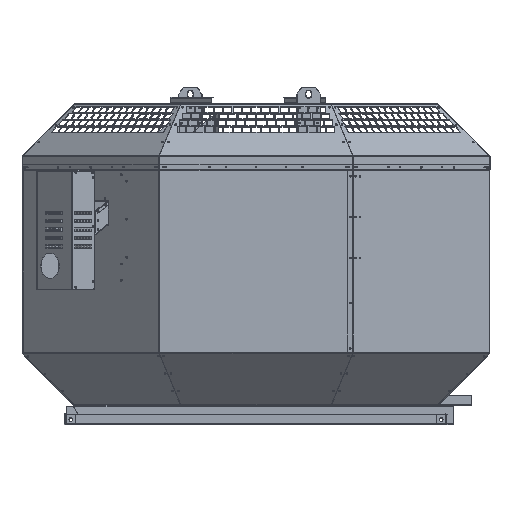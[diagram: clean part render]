
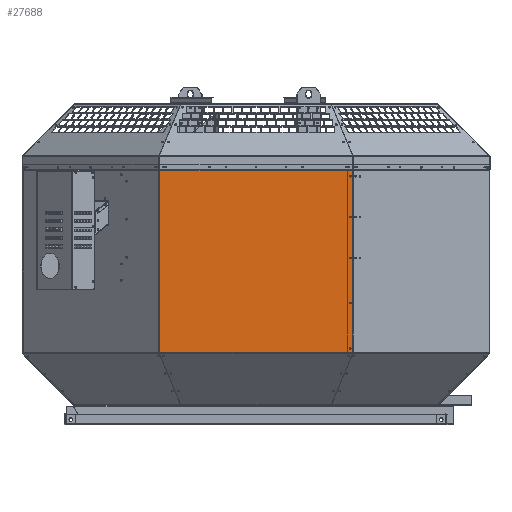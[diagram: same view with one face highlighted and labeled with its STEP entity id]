
A CAD part, top view. The second image highlights one B-rep face of the part: STEP entity #27688.
In plain terms, the highlighted planar face has unit normal (0, 0, 1).
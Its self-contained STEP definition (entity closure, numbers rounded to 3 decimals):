
#151 = LINE ( 'NONE', #9553, #93771 ) ;
#1128 = ORIENTED_EDGE ( 'NONE', *, *, #67604, .F. ) ;
#1629 = CARTESIAN_POINT ( 'NONE',  ( -233.498, 590.421, 568. ) ) ;
#2551 = CIRCLE ( 'NONE', #55662, 2.1 ) ;
#2595 = CARTESIAN_POINT ( 'NONE',  ( 234.859, 590.428, 568. ) ) ;
#2817 = EDGE_CURVE ( 'NONE', #38827, #138201, #107559, .T. ) ;
#5178 = EDGE_CURVE ( 'NONE', #20862, #152378, #40126, .T. ) ;
#5312 = EDGE_CURVE ( 'NONE', #138812, #105845, #103012, .T. ) ;
#5817 = FACE_BOUND ( 'NONE', #92438, .T. ) ;
#6319 = AXIS2_PLACEMENT_3D ( 'NONE', #111036, #37915, #123336 ) ;
#8325 = DIRECTION ( 'NONE',  ( 1., 0., 0. ) ) ;
#9553 = CARTESIAN_POINT ( 'NONE',  ( -233.498, 604.421, 568. ) ) ;
#11356 = CARTESIAN_POINT ( 'NONE',  ( -233.498, 590.421, 568. ) ) ;
#11922 = CARTESIAN_POINT ( 'NONE',  ( 228.859, 158.421, 568. ) ) ;
#12497 = PLANE ( 'NONE',  #123703 ) ;
#14889 = VECTOR ( 'NONE', #127688, 1000. ) ;
#18500 = EDGE_LOOP ( 'NONE', ( #124838, #29100 ) ) ;
#19979 = VECTOR ( 'NONE', #140148, 1000. ) ;
#20862 = VERTEX_POINT ( 'NONE', #24418 ) ;
#24204 = DIRECTION ( 'NONE',  ( 1., 0., 0. ) ) ;
#24418 = CARTESIAN_POINT ( 'NONE',  ( 226.759, 477.101, 568. ) ) ;
#24815 = DIRECTION ( 'NONE',  ( 0., 0., 1. ) ) ;
#25429 = ORIENTED_EDGE ( 'NONE', *, *, #150285, .T. ) ;
#26228 = AXIS2_PLACEMENT_3D ( 'NONE', #127027, #53875, #139251 ) ;
#26461 = CARTESIAN_POINT ( 'NONE',  ( 228.859, 576.201, 568. ) ) ;
#27688 = ADVANCED_FACE ( 'NONE', ( #107024, #5817, #70784, #135715, #131917, #38307 ), #12497, .T. ) ;
#28796 = DIRECTION ( 'NONE',  ( 0., 0., 1. ) ) ;
#29100 = ORIENTED_EDGE ( 'NONE', *, *, #5178, .F. ) ;
#31302 = DIRECTION ( 'NONE',  ( 0., 0., 1. ) ) ;
#32842 = CARTESIAN_POINT ( 'NONE',  ( 228.859, 477.101, 568. ) ) ;
#34537 = LINE ( 'NONE', #11356, #66971 ) ;
#35946 = CARTESIAN_POINT ( 'NONE',  ( 234.859, 590.428, 568. ) ) ;
#36448 = EDGE_CURVE ( 'NONE', #124327, #61599, #2551, .T. ) ;
#37061 = VERTEX_POINT ( 'NONE', #1629 ) ;
#37795 = EDGE_LOOP ( 'NONE', ( #85431, #25429, #144304, #99754, #69837, #59919 ) ) ;
#37915 = DIRECTION ( 'NONE',  ( 0., 0., 1. ) ) ;
#37968 = CARTESIAN_POINT ( 'NONE',  ( 226.759, 268.211, 568. ) ) ;
#38307 = FACE_OUTER_BOUND ( 'NONE', #37795, .T. ) ;
#38701 = DIRECTION ( 'NONE',  ( 1., 0., 0. ) ) ;
#38827 = VERTEX_POINT ( 'NONE', #137919 ) ;
#40126 = CIRCLE ( 'NONE', #40623, 2.1 ) ;
#40623 = AXIS2_PLACEMENT_3D ( 'NONE', #32842, #118183, #45069 ) ;
#41527 = ORIENTED_EDGE ( 'NONE', *, *, #70779, .F. ) ;
#41808 = CARTESIAN_POINT ( 'NONE',  ( -233.498, 590.428, 568. ) ) ;
#42268 = CARTESIAN_POINT ( 'NONE',  ( 234.859, 148.421, 568. ) ) ;
#42516 = CARTESIAN_POINT ( 'NONE',  ( 234.859, 604.421, 568. ) ) ;
#45069 = DIRECTION ( 'NONE',  ( 1., 0., 0. ) ) ;
#45438 = LINE ( 'NONE', #42268, #14889 ) ;
#47717 = ORIENTED_EDGE ( 'NONE', *, *, #107177, .F. ) ;
#48230 = DIRECTION ( 'NONE',  ( -1., 0., 0. ) ) ;
#48351 = CIRCLE ( 'NONE', #141527, 2.1 ) ;
#49208 = VERTEX_POINT ( 'NONE', #37968 ) ;
#50147 = EDGE_CURVE ( 'NONE', #152378, #20862, #97925, .T. ) ;
#50533 = CARTESIAN_POINT ( 'NONE',  ( 226.759, 158.421, 568. ) ) ;
#52083 = CARTESIAN_POINT ( 'NONE',  ( 230.959, 268.211, 568. ) ) ;
#52808 = ORIENTED_EDGE ( 'NONE', *, *, #86548, .F. ) ;
#52831 = VERTEX_POINT ( 'NONE', #116034 ) ;
#53781 = CARTESIAN_POINT ( 'NONE',  ( 226.759, 576.201, 568. ) ) ;
#53875 = DIRECTION ( 'NONE',  ( 0., 0., 1. ) ) ;
#54520 = ORIENTED_EDGE ( 'NONE', *, *, #147623, .F. ) ;
#55662 = AXIS2_PLACEMENT_3D ( 'NONE', #26461, #111800, #38701 ) ;
#57637 = AXIS2_PLACEMENT_3D ( 'NONE', #11922, #97288, #24204 ) ;
#59919 = ORIENTED_EDGE ( 'NONE', *, *, #153485, .F. ) ;
#60581 = ORIENTED_EDGE ( 'NONE', *, *, #94506, .F. ) ;
#61599 = VERTEX_POINT ( 'NONE', #122317 ) ;
#62110 = CIRCLE ( 'NONE', #26228, 2.1 ) ;
#63239 = CARTESIAN_POINT ( 'NONE',  ( 228.859, 268.211, 568. ) ) ;
#65525 = DIRECTION ( 'NONE',  ( 0., 0., 1. ) ) ;
#66652 = CARTESIAN_POINT ( 'NONE',  ( 230.959, 477.101, 568. ) ) ;
#66971 = VECTOR ( 'NONE', #48230, 1000. ) ;
#67604 = EDGE_CURVE ( 'NONE', #138201, #38827, #121569, .T. ) ;
#69697 = CIRCLE ( 'NONE', #6319, 2.1 ) ;
#69837 = ORIENTED_EDGE ( 'NONE', *, *, #103826, .F. ) ;
#70779 = EDGE_CURVE ( 'NONE', #61599, #124327, #48351, .T. ) ;
#70784 = FACE_BOUND ( 'NONE', #18500, .T. ) ;
#73863 = AXIS2_PLACEMENT_3D ( 'NONE', #154638, #81379, #8325 ) ;
#74385 = VECTOR ( 'NONE', #84484, 1000. ) ;
#75443 = DIRECTION ( 'NONE',  ( 1., 0., 0. ) ) ;
#77262 = ORIENTED_EDGE ( 'NONE', *, *, #2817, .F. ) ;
#78588 = VERTEX_POINT ( 'NONE', #142790 ) ;
#81379 = DIRECTION ( 'NONE',  ( 0., 0., 1. ) ) ;
#84180 = CARTESIAN_POINT ( 'NONE',  ( 234.859, 148.421, 568. ) ) ;
#84484 = DIRECTION ( 'NONE',  ( 1., 0., 0. ) ) ;
#85431 = ORIENTED_EDGE ( 'NONE', *, *, #5312, .F. ) ;
#86548 = EDGE_CURVE ( 'NONE', #49208, #114175, #69697, .T. ) ;
#90722 = CARTESIAN_POINT ( 'NONE',  ( 230.959, 378.001, 568. ) ) ;
#92438 = EDGE_LOOP ( 'NONE', ( #54520, #52808 ) ) ;
#93283 = CIRCLE ( 'NONE', #115929, 2.1 ) ;
#93771 = VECTOR ( 'NONE', #119493, 1000. ) ;
#93824 = CARTESIAN_POINT ( 'NONE',  ( -233.948, 148.421, 568. ) ) ;
#94467 = AXIS2_PLACEMENT_3D ( 'NONE', #138612, #65525, #150915 ) ;
#94506 = EDGE_CURVE ( 'NONE', #123802, #78588, #62110, .T. ) ;
#96656 = AXIS2_PLACEMENT_3D ( 'NONE', #101814, #28796, #114106 ) ;
#97288 = DIRECTION ( 'NONE',  ( 0., 0., 1. ) ) ;
#97890 = CARTESIAN_POINT ( 'NONE',  ( 234.859, 604.421, 568. ) ) ;
#97925 = CIRCLE ( 'NONE', #73863, 2.1 ) ;
#99754 = ORIENTED_EDGE ( 'NONE', *, *, #119578, .T. ) ;
#100393 = CIRCLE ( 'NONE', #94467, 2.1 ) ;
#101814 = CARTESIAN_POINT ( 'NONE',  ( 228.859, 158.421, 568. ) ) ;
#103012 = LINE ( 'NONE', #35946, #74385 ) ;
#103826 = EDGE_CURVE ( 'NONE', #154971, #154788, #45438, .T. ) ;
#104322 = CARTESIAN_POINT ( 'NONE',  ( 228.859, 576.201, 568. ) ) ;
#105845 = VERTEX_POINT ( 'NONE', #2595 ) ;
#107024 = FACE_BOUND ( 'NONE', #133814, .T. ) ;
#107177 = EDGE_CURVE ( 'NONE', #78588, #123802, #100393, .T. ) ;
#107559 = CIRCLE ( 'NONE', #96656, 2.1 ) ;
#110135 = DIRECTION ( 'NONE',  ( 1., 0., 0. ) ) ;
#111036 = CARTESIAN_POINT ( 'NONE',  ( 228.859, 268.211, 568. ) ) ;
#111800 = DIRECTION ( 'NONE',  ( 0., 0., 1. ) ) ;
#113750 = EDGE_LOOP ( 'NONE', ( #41527, #129689 ) ) ;
#114106 = DIRECTION ( 'NONE',  ( 1., 0., 0. ) ) ;
#114175 = VERTEX_POINT ( 'NONE', #52083 ) ;
#114378 = LINE ( 'NONE', #154129, #143044 ) ;
#115929 = AXIS2_PLACEMENT_3D ( 'NONE', #63239, #148615, #75443 ) ;
#116034 = CARTESIAN_POINT ( 'NONE',  ( -233.948, 590.421, 568. ) ) ;
#116675 = DIRECTION ( 'NONE',  ( 1., 0., 0. ) ) ;
#117787 = DIRECTION ( 'NONE',  ( 0., -1., 0. ) ) ;
#118183 = DIRECTION ( 'NONE',  ( 0., 0., 1. ) ) ;
#119493 = DIRECTION ( 'NONE',  ( 0., -1., 0. ) ) ;
#119578 = EDGE_CURVE ( 'NONE', #52831, #154788, #114378, .T. ) ;
#121569 = CIRCLE ( 'NONE', #57637, 2.1 ) ;
#122317 = CARTESIAN_POINT ( 'NONE',  ( 230.959, 576.201, 568. ) ) ;
#123336 = DIRECTION ( 'NONE',  ( 1., 0., 0. ) ) ;
#123703 = AXIS2_PLACEMENT_3D ( 'NONE', #97890, #24815, #110135 ) ;
#123802 = VERTEX_POINT ( 'NONE', #90722 ) ;
#124327 = VERTEX_POINT ( 'NONE', #53781 ) ;
#124838 = ORIENTED_EDGE ( 'NONE', *, *, #50147, .F. ) ;
#127027 = CARTESIAN_POINT ( 'NONE',  ( 228.859, 378.001, 568. ) ) ;
#127688 = DIRECTION ( 'NONE',  ( -1., 0., 0. ) ) ;
#129689 = ORIENTED_EDGE ( 'NONE', *, *, #36448, .F. ) ;
#131917 = FACE_BOUND ( 'NONE', #113750, .T. ) ;
#133814 = EDGE_LOOP ( 'NONE', ( #77262, #1128 ) ) ;
#135715 = FACE_BOUND ( 'NONE', #145007, .T. ) ;
#137919 = CARTESIAN_POINT ( 'NONE',  ( 230.959, 158.421, 568. ) ) ;
#138201 = VERTEX_POINT ( 'NONE', #50533 ) ;
#138612 = CARTESIAN_POINT ( 'NONE',  ( 228.859, 378.001, 568. ) ) ;
#138812 = VERTEX_POINT ( 'NONE', #41808 ) ;
#139251 = DIRECTION ( 'NONE',  ( 1., 0., 0. ) ) ;
#140148 = DIRECTION ( 'NONE',  ( 0., -1., 0. ) ) ;
#141527 = AXIS2_PLACEMENT_3D ( 'NONE', #104322, #31302, #116675 ) ;
#142790 = CARTESIAN_POINT ( 'NONE',  ( 226.759, 378.001, 568. ) ) ;
#143044 = VECTOR ( 'NONE', #117787, 1000. ) ;
#144304 = ORIENTED_EDGE ( 'NONE', *, *, #146560, .T. ) ;
#145007 = EDGE_LOOP ( 'NONE', ( #60581, #47717 ) ) ;
#146560 = EDGE_CURVE ( 'NONE', #37061, #52831, #34537, .T. ) ;
#147623 = EDGE_CURVE ( 'NONE', #114175, #49208, #93283, .T. ) ;
#148615 = DIRECTION ( 'NONE',  ( 0., 0., 1. ) ) ;
#149866 = LINE ( 'NONE', #42516, #19979 ) ;
#150285 = EDGE_CURVE ( 'NONE', #138812, #37061, #151, .T. ) ;
#150915 = DIRECTION ( 'NONE',  ( 1., 0., 0. ) ) ;
#152378 = VERTEX_POINT ( 'NONE', #66652 ) ;
#153485 = EDGE_CURVE ( 'NONE', #105845, #154971, #149866, .T. ) ;
#154129 = CARTESIAN_POINT ( 'NONE',  ( -233.948, 604.421, 568. ) ) ;
#154638 = CARTESIAN_POINT ( 'NONE',  ( 228.859, 477.101, 568. ) ) ;
#154788 = VERTEX_POINT ( 'NONE', #93824 ) ;
#154971 = VERTEX_POINT ( 'NONE', #84180 ) ;
